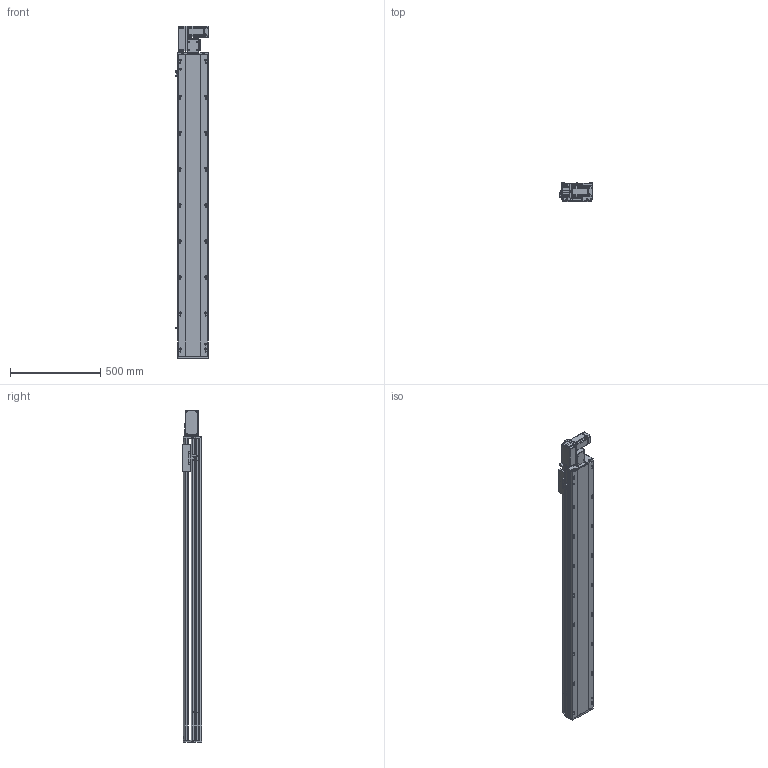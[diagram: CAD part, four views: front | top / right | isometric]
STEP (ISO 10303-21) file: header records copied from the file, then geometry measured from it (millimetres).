
FILE_DESCRIPTION (( 'STEP AP214' ), '1' );
FILE_NAME ('RTB17S-XX-1400-L-M40-C4.STEP', '2025-12-11T05:42:26', ( '' ), ( '' ), 'SwSTEP 2.0', 'SolidWorks 2018', '' );
FILE_SCHEMA (( 'AUTOMOTIVE_DESIGN' ));
Length unit declared in the file: millimetre
Products named in the file (14): RTB17S-L-001侧面板^RTB17S-XX-XX-L-M40-C4（方程式）; RMP17S-L-014-T20--皮带座^RTB17S-L-皮带座装配-400W_RTB17S-XX-XX-L-M40-C4（方程式）; RTB17S-L-007上盖^RTB17S-XX-XX-L-M40-C4（方程式）; RTB17S-L-004丝杆螺母连接座^RTB17S-XX-XX-L-M40-C4（方程式）; RTB17S-XX-1400-L-M40-C4; RTB17S-L-皮带座装配-400W^RTB17S-XX-XX-L-M40-C4（方程式）; RTB14-L-005P--轴承塑胶压盖^RTB17S-L-皮带座装配-400W_RTB17S-XX-XX-L-M40-C4（方程式）; RTB14-L-017P^RTB17S-L-皮带座装配-400W_RTB17S-XX-XX-L-M40-C4（方程式）; RTB14-L-018P^RTB17S-L-皮带座装配-400W_RTB17S-XX-XX-L-M40-C4（方程式）; RTH13-BL-012感应片外置^RTB17S-XX-XX-L-M40-C4（方程式）; RTB14-L-008-M20--电机板^RTB17S-L-皮带座装配-400W_RTB17S-XX-XX-L-M40-C4（方程式）; RTB17-R-011底座^RTB17S-XX-XX-L-M40-C4（方程式）; 400W伺服电机^RTB17S-XX-XX-L-M40-C4（方程式）; OMRON EE-SX672 传感器^RTB17S-XX-XX-L-M40-C4（方程式）
Assembly tree (16 placements, depth 3):
  RTB17S-XX-1400-L-M40-C4
    RTB17-R-011底座^RTB17S-XX-XX-L-M40-C4（方程式）
    RTB17S-L-007上盖^RTB17S-XX-XX-L-M40-C4（方程式）
    OMRON EE-SX672 传感器^RTB17S-XX-XX-L-M40-C4（方程式）  x3
    RTB17S-L-001侧面板^RTB17S-XX-XX-L-M40-C4（方程式）
    400W伺服电机^RTB17S-XX-XX-L-M40-C4（方程式）
    RTB17S-L-004丝杆螺母连接座^RTB17S-XX-XX-L-M40-C4（方程式）
    RTH13-BL-012感应片外置^RTB17S-XX-XX-L-M40-C4（方程式）
    RTB17S-L-皮带座装配-400W^RTB17S-XX-XX-L-M40-C4（方程式）
      RMP17S-L-014-T20--皮带座^RTB17S-L-皮带座装配-400W_RTB17S-XX-XX-L-M40-C4（方程式）
      RTB14-L-005P--轴承塑胶压盖^RTB17S-L-皮带座装配-400W_RTB17S-XX-XX-L-M40-C4（方程式）
      RTB14-L-008-M20--电机板^RTB17S-L-皮带座装配-400W_RTB17S-XX-XX-L-M40-C4（方程式）
      RTB14-L-017P^RTB17S-L-皮带座装配-400W_RTB17S-XX-XX-L-M40-C4（方程式）  x2
      RTB14-L-018P^RTB17S-L-皮带座装配-400W_RTB17S-XX-XX-L-M40-C4（方程式）
Bounding box: 186 x 108 x 1841 mm (x, y, z)
Volume: 15638949.3 mm3; surface area: 1852882.1 mm2
Topology: 15 solids, 15 shells, 2237 faces, 6195 edges, 4041 vertices
Faces by surface type: plane 1072, cylinder 717, bspline 301, cone 139, torus 8
Entity records: 64169 total; most frequent: CARTESIAN_POINT 18000, ORIENTED_EDGE 9234, DIRECTION 8576, EDGE_CURVE 4617, VERTEX_POINT 3029, AXIS2_PLACEMENT_3D 2959, VECTOR 2658, LINE 2658
